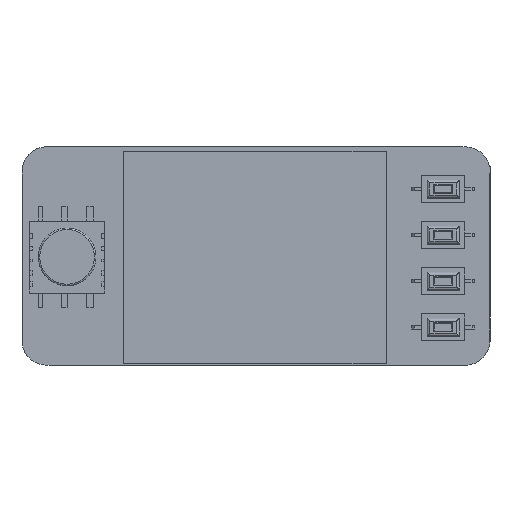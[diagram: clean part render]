
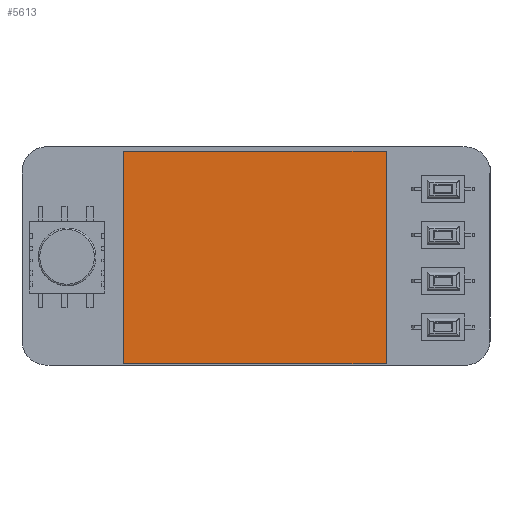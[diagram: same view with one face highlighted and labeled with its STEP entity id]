
A CAD part, top view. The second image highlights one B-rep face of the part: STEP entity #5613.
In plain terms, the highlighted planar face has unit normal (0, 0, 1).
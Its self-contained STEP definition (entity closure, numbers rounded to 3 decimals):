
#4724=PLANE('',#21557);
#5613=ADVANCED_FACE('',(#6773),#4724,.F.);
#6773=FACE_OUTER_BOUND('',#7822,.T.);
#7822=EDGE_LOOP('',(#9987,#9988,#9989,#9990));
#9987=ORIENTED_EDGE('',*,*,#15766,.T.);
#9988=ORIENTED_EDGE('',*,*,#15770,.T.);
#9989=ORIENTED_EDGE('',*,*,#15773,.T.);
#9990=ORIENTED_EDGE('',*,*,#15775,.T.);
#14041=VERTEX_POINT('',#31243);
#14042=VERTEX_POINT('',#31245);
#14044=VERTEX_POINT('',#31251);
#14046=VERTEX_POINT('',#31257);
#15766=EDGE_CURVE('',#14042,#14041,#17912,.T.);
#15770=EDGE_CURVE('',#14041,#14044,#17916,.T.);
#15773=EDGE_CURVE('',#14044,#14046,#17919,.T.);
#15775=EDGE_CURVE('',#14046,#14042,#17921,.T.);
#17912=LINE('',#31244,#19749);
#17916=LINE('',#31252,#19753);
#17919=LINE('',#31258,#19756);
#17921=LINE('',#31261,#19758);
#19749=VECTOR('',#23307,1.);
#19753=VECTOR('',#23313,1.);
#19756=VECTOR('',#23318,1.);
#19758=VECTOR('',#23322,1.);
#21557=AXIS2_PLACEMENT_3D('',#31264,#23327,#23328);
#23307=DIRECTION('',(1.,0.,0.));
#23313=DIRECTION('',(0.,1.,0.));
#23318=DIRECTION('',(-1.,0.,0.));
#23322=DIRECTION('',(0.,-1.,0.));
#23327=DIRECTION('',(0.,0.,-1.));
#23328=DIRECTION('',(1.,0.,0.));
#31243=CARTESIAN_POINT('',(18.263,-14.745,1.4));
#31244=CARTESIAN_POINT('',(-18.263,-14.745,1.4));
#31245=CARTESIAN_POINT('',(-18.263,-14.745,1.4));
#31251=CARTESIAN_POINT('',(18.263,14.745,1.4));
#31252=CARTESIAN_POINT('',(18.263,-14.745,1.4));
#31257=CARTESIAN_POINT('',(-18.263,14.745,1.4));
#31258=CARTESIAN_POINT('',(18.263,14.745,1.4));
#31261=CARTESIAN_POINT('',(-18.263,14.745,1.4));
#31264=CARTESIAN_POINT('',(-18.263,-14.745,1.4));
